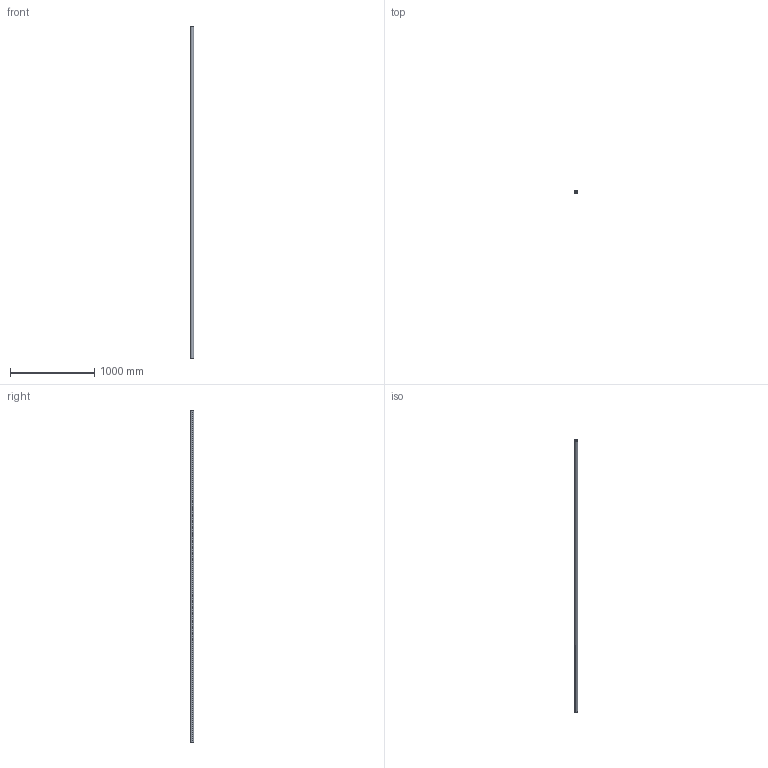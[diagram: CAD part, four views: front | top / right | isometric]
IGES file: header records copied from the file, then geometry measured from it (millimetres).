
Start section: SolidWorks IGES file using analytic representation for surfaces
Global section: file name: C:\Users\IanO\Desktop\L1771_v2\L1771.40_v2\L1771.40_v2_20230705_IGES\L1771.40-3950.igs; native system: SolidWorks 2019; preprocessor: SolidWorks 2019; author: IanO; date: 230705.162216; units: millimetre
Bounding box: 40 x 40 x 3950 mm (x, y, z)
Surface area: 845113.6 mm2 (no closed solid volume)
Topology: 0 solids, 0 shells, 6 faces, 272 edges, 272 vertices
Faces by surface type: revolution 4, bspline 2
